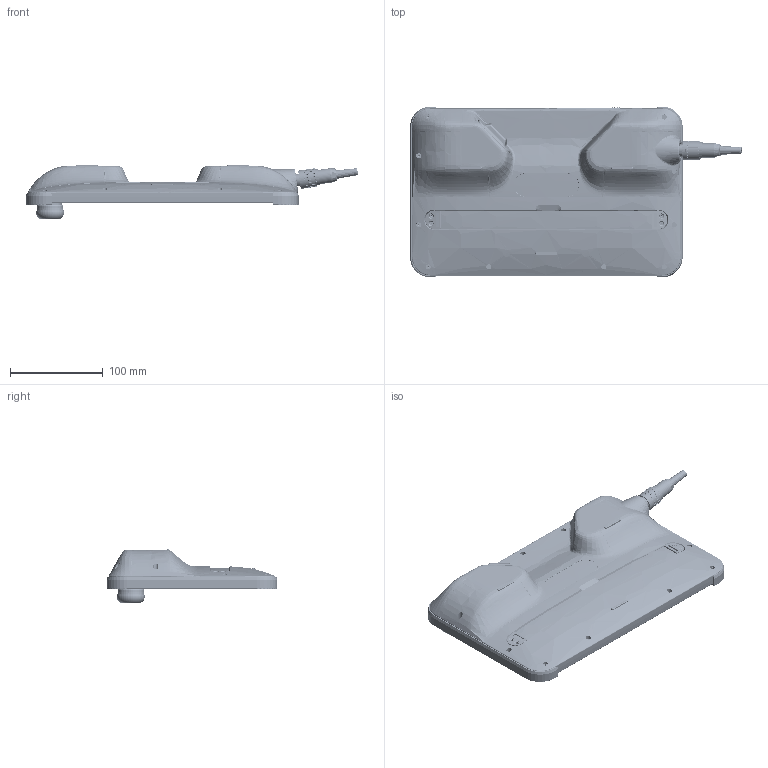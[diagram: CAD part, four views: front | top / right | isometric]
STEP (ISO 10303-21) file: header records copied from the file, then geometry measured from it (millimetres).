
FILE_DESCRIPTION((''),'2;1');
FILE_NAME('00000_P2000_ASM_6_ASM','2024-02-29T18:27:25',('94970'),(''),'CREO PARAMETRIC BY PTC INC, 2017260','CREO PARAMETRIC BY PTC INC, 2017260','');
FILE_SCHEMA(('AUTOMOTIVE_DESIGN { 1 0 10303 214 1 1 1 1 }'));
Products named in the file (61): 00; SUA-110EFX-XXX3D000_2; FUS601_REF_2_1; FUS601_REF_2_2; FUS601_REF_2_ASM; PCBA_ASM_2_ASM; A6-HANDLE-BV-RH_00_2; XA-LOCK-NUT_00_2; A6-BODY-V-Y_2C_00_2; 3-AB6E-3BV02PRH_ASM_2_ASM; _AB6E-3BV02PRH0001_ASM_2_ASM; 3202020515_4_1; 3202020515_4_2; 3202020515_4_3; 3202020515_4_4; 3202020515_4_5; 3202020515_4_6; 3202020515_4_7; 3202020515_4_ASM; 0003_ASM_3_ASM; _A_3; 3511000001-1_4; SCA_3; 0006_ASM_3_ASM; DELL1A74BC6B8X2H_1_2; DELL1A74BC6B8X2H_2_2; DELL1A74BC6B8X2H_ASM_2_ASM; HE6B0001_ASM_2_ASM; T3687118U_1__2_1; T3687118U_1__2_2; T3687118U_1__2_3; T3687118U_1__2_4; T3687118U_1__2_5; T3687118U_1__2_6; T3687118U_1__2_7; T3687118U_1__2_8; T3687118U_1__2_9; T3687118U_1__2_10; T3687118U_1__2_11; T3687118U_1__2_12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
Assembly tree (67 placements, depth 4):
  00000_P2000_ASM_6_ASM
    00
    00
    PCBA_ASM_2_ASM
      SUA-110EFX-XXX3D000_2  x2
      FUS601_REF_2_ASM
        FUS601_REF_2_1
        FUS601_REF_2_2
    _AB6E-3BV02PRH0001_ASM_2_ASM
      3-AB6E-3BV02PRH_ASM_2_ASM
        A6-HANDLE-BV-RH_00_2
        XA-LOCK-NUT_00_2
        A6-BODY-V-Y_2C_00_2
    0003_ASM_3_ASM
      3202020515_4_ASM
        3202020515_4_1
        3202020515_4_2
        3202020515_4_3
        3202020515_4_4
        3202020515_4_5
        3202020515_4_6
        3202020515_4_7
    0006_ASM_3_ASM
      _A_3
      3511000001-1_4
      SCA_3
    HE6B0001_ASM_2_ASM
      DELL1A74BC6B8X2H_ASM_2_ASM
        DELL1A74BC6B8X2H_1_2
        DELL1A74BC6B8X2H_2_2
    T3687118U_1__2_ASM
      T3687118U_1__2_1
      T3687118U_1__2_2
      T3687118U_1__2_3
      T3687118U_1__2_4
      T3687118U_1__2_5
      T3687118U_1__2_6
      T3687118U_1__2_7
      T3687118U_1__2_8
      T3687118U_1__2_9
      T3687118U_1__2_10
      T3687118U_1__2_11
      T3687118U_1__2_12
      T3687118U_1__2_13
      T3687118U_1__2_14
      T3687118U_1__2_15
      T3687118U_1__2_16
      T3687118U_1__2_17
      T3687118U_1__2_18
      T3687118U_1__2_19
    T3684518U_1__2
    000
    000  x2
    0005
    0  x3
    000
    1000
    0008
    2000
    M2_5X4_GB819_2  x4
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Bounding box: 357.98 x 184 x 59.23 mm (x, y, z)
Volume: 440469.3 mm3; surface area: 478879.2 mm2
Topology: 57 solids, 78 shells, 8612 faces, 24191 edges, 15669 vertices
Faces by surface type: plane 4722, cylinder 2177, bspline 853, cone 370, torus 362, sphere 108, extrusion 20
Entity records: 344916 total; most frequent: CARTESIAN_POINT 122901, ORIENTED_EDGE 43062, DIRECTION 37507, EDGE_CURVE 21531, VERTEX_POINT 14075, AXIS2_PLACEMENT_3D 12675, VECTOR 12157, LINE 12137
